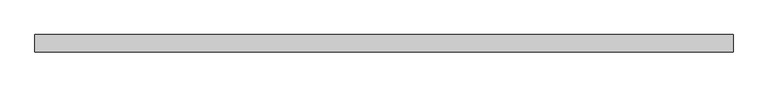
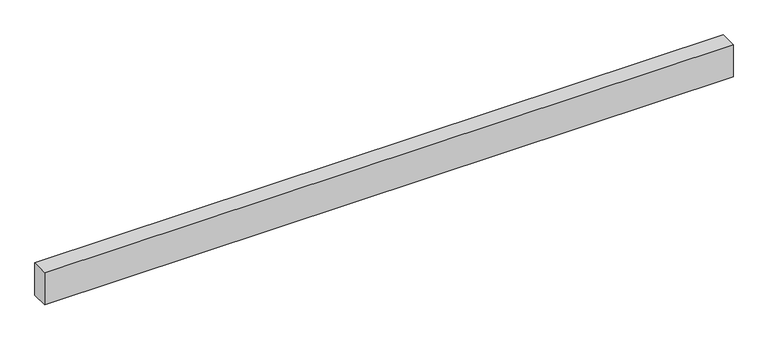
"""IFC4 building model written with IfcOpenShell, lengths in millimetres: proxy geometry, Building-Materials_Other_Daliform_Simple-Family_Accessory_PANEL_for ATLANTIS : PANEL_ATLANTIS_diam110_5x100x10."""

from ifc_helpers import new_model, si_unit, origin, origin_with_axes, place, context, project, spatial, polyline, outline, extrude, source, transform, mapped, element, save


def generic_models_1f42381d(model_context):
    return source(origin(), model_context, "Body", "SweptSolid", [
        extrude(outline(polyline([(0.0, -50.0), (0.0, 0.0), (2022.8853879, 0.0), (2022.8853879, -50.0), (0.0, -50.0)])), origin_with_axes(), (0.0, 0.0, 1.0), 100.0),
    ])


if __name__ == "__main__":
    model = new_model("IFC4")
    model_context = context("Model", 3, world=origin())
    ifc_project = project(units=[si_unit("LENGTHUNIT", "METRE", prefix="MILLI")], contexts=[model_context])
    site = spatial("IfcSite", under=ifc_project)
    building = spatial("IfcBuilding", under=site)
    placement = place(None, origin())
    generic_models_shape = generic_models_1f42381d(model_context)
    element("IfcBuildingElementProxy", 1, Name="Building-Materials_Other_Daliform_Simple-Family_Accessory_PANEL_for ATLANTIS : PANEL_ATLANTIS_diam110_5x100x10", ObjectType="Building-Materials_Other_Daliform_Simple-Family_Accessory_PANEL_for ATLANTIS : PANEL_ATLANTIS_diam110_5x100x10", at=placement, inside=building, context=model_context, shape_type="MappedRepresentation", body=[
        mapped(generic_models_shape, transform((0.0, 0.0, 0.0), x_axis=(1.0, 0.0, 0.0), y_axis=(0.0, 1.0, 0.0), z_axis=(0.0, 0.0, 1.0))),
    ])
    save(model, "model.ifc")
